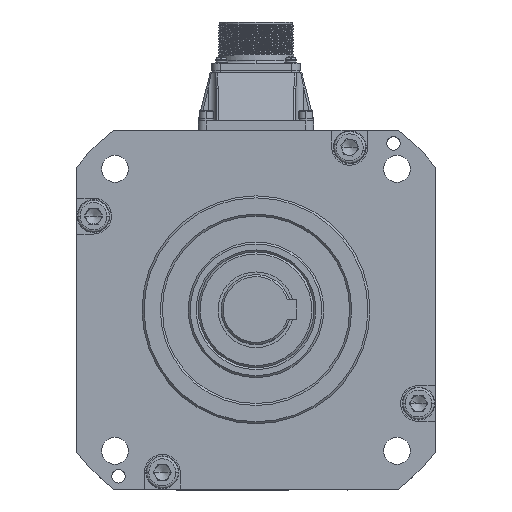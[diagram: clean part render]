
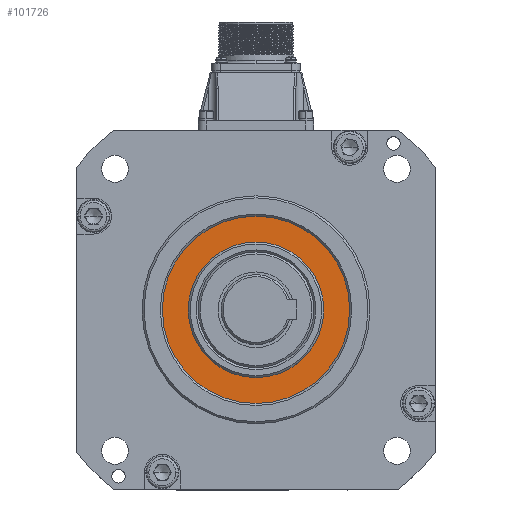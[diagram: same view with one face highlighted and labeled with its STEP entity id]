
A CAD part, top view. The second image highlights one B-rep face of the part: STEP entity #101726.
In plain terms, the highlighted planar face has unit normal (0, 0, 1).
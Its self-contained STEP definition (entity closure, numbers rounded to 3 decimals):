
#1351 = DIRECTION ( 'NONE',  ( 1., 0., 0. ) ) ;
#4338 = VERTEX_POINT ( 'NONE', #32962 ) ;
#8954 = CARTESIAN_POINT ( 'NONE',  ( 146.931, 189.071, 290.945 ) ) ;
#12371 = EDGE_CURVE ( 'NONE', #4338, #55485, #55829, .T. ) ;
#16135 = AXIS2_PLACEMENT_3D ( 'NONE', #42478, #101405, #50975 ) ;
#16668 = DIRECTION ( 'NONE',  ( 0., 0., 1. ) ) ;
#17397 = DIRECTION ( 'NONE',  ( -1., 0., 0. ) ) ;
#17918 = CARTESIAN_POINT ( 'NONE',  ( 146.931, 189.071, 290.945 ) ) ;
#21399 = CIRCLE ( 'NONE', #85939, 34. ) ;
#21594 = CIRCLE ( 'NONE', #28661, 47. ) ;
#21767 = ORIENTED_EDGE ( 'NONE', *, *, #34271, .T. ) ;
#24404 = AXIS2_PLACEMENT_3D ( 'NONE', #8954, #67795, #17397 ) ;
#26078 = EDGE_LOOP ( 'NONE', ( #60038, #73208 ) ) ;
#28661 = AXIS2_PLACEMENT_3D ( 'NONE', #67060, #16668, #75540 ) ;
#32962 = CARTESIAN_POINT ( 'NONE',  ( 112.931, 189.071, 290.945 ) ) ;
#34271 = EDGE_CURVE ( 'NONE', #107218, #67594, #70433, .T. ) ;
#37502 = ORIENTED_EDGE ( 'NONE', *, *, #80050, .T. ) ;
#39942 = DIRECTION ( 'NONE',  ( 0., 0., -1. ) ) ;
#42478 = CARTESIAN_POINT ( 'NONE',  ( 146.931, 189.071, 290.945 ) ) ;
#47613 = CARTESIAN_POINT ( 'NONE',  ( 180.931, 189.071, 290.945 ) ) ;
#50975 = DIRECTION ( 'NONE',  ( -1., 0., 0. ) ) ;
#51747 = DIRECTION ( 'NONE',  ( 0., 0., 1. ) ) ;
#54679 = FACE_BOUND ( 'NONE', #26078, .T. ) ;
#55485 = VERTEX_POINT ( 'NONE', #47613 ) ;
#55829 = CIRCLE ( 'NONE', #24404, 34. ) ;
#59992 = FACE_OUTER_BOUND ( 'NONE', #98133, .T. ) ;
#60038 = ORIENTED_EDGE ( 'NONE', *, *, #12371, .T. ) ;
#65433 = AXIS2_PLACEMENT_3D ( 'NONE', #17918, #51747, #1351 ) ;
#67060 = CARTESIAN_POINT ( 'NONE',  ( 146.931, 189.071, 290.945 ) ) ;
#67594 = VERTEX_POINT ( 'NONE', #86032 ) ;
#67795 = DIRECTION ( 'NONE',  ( 0., 0., -1. ) ) ;
#70433 = CIRCLE ( 'NONE', #16135, 47. ) ;
#73208 = ORIENTED_EDGE ( 'NONE', *, *, #82130, .T. ) ;
#75540 = DIRECTION ( 'NONE',  ( -1., 0., 0. ) ) ;
#76767 = PLANE ( 'NONE',  #65433 ) ;
#80050 = EDGE_CURVE ( 'NONE', #67594, #107218, #21594, .T. ) ;
#82130 = EDGE_CURVE ( 'NONE', #55485, #4338, #21399, .T. ) ;
#85939 = AXIS2_PLACEMENT_3D ( 'NONE', #90373, #39942, #98839 ) ;
#86032 = CARTESIAN_POINT ( 'NONE',  ( 99.931, 189.071, 290.945 ) ) ;
#86147 = CARTESIAN_POINT ( 'NONE',  ( 193.931, 189.071, 290.945 ) ) ;
#90373 = CARTESIAN_POINT ( 'NONE',  ( 146.931, 189.071, 290.945 ) ) ;
#98133 = EDGE_LOOP ( 'NONE', ( #37502, #21767 ) ) ;
#98839 = DIRECTION ( 'NONE',  ( -1., 0., 0. ) ) ;
#101405 = DIRECTION ( 'NONE',  ( 0., 0., 1. ) ) ;
#101726 = ADVANCED_FACE ( 'NONE', ( #59992, #54679 ), #76767, .T. ) ;
#107218 = VERTEX_POINT ( 'NONE', #86147 ) ;
